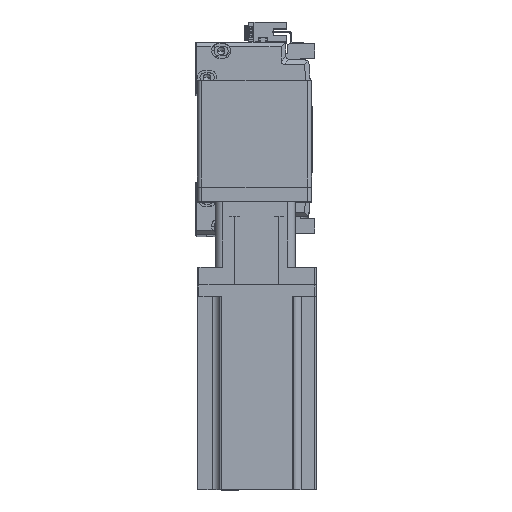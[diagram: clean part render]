
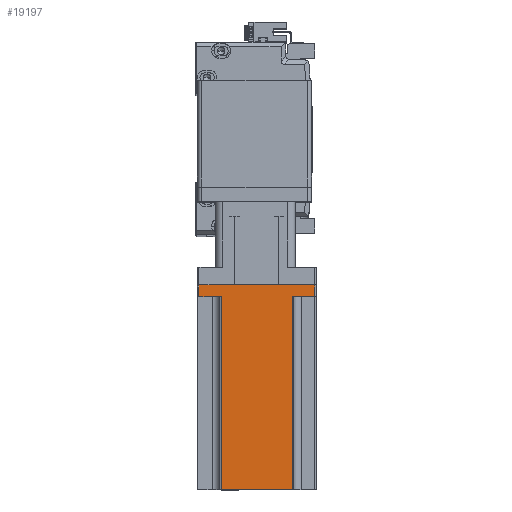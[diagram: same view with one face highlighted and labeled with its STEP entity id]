
A CAD part, top view. The second image highlights one B-rep face of the part: STEP entity #19197.
In plain terms, the highlighted planar face has unit normal (0, 0, 1) as drawn and (0, 1, 0) by its records, which use the part's own axes.
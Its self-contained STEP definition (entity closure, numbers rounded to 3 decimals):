
#129 = VERTEX_POINT ( 'NONE', #39412 ) ;
#264 = CARTESIAN_POINT ( 'NONE',  ( 40., 40., 0. ) ) ;
#806 = ORIENTED_EDGE ( 'NONE', *, *, #5353, .T. ) ;
#1436 = ORIENTED_EDGE ( 'NONE', *, *, #20038, .T. ) ;
#2991 = LINE ( 'NONE', #23368, #12756 ) ;
#3184 = ORIENTED_EDGE ( 'NONE', *, *, #32253, .T. ) ;
#3455 = VERTEX_POINT ( 'NONE', #28527 ) ;
#3532 = VECTOR ( 'NONE', #14710, 1000. ) ;
#4708 = LINE ( 'NONE', #43655, #3532 ) ;
#5270 = VECTOR ( 'NONE', #25439, 1000. ) ;
#5353 = EDGE_CURVE ( 'NONE', #26854, #3455, #33298, .T. ) ;
#5922 = VERTEX_POINT ( 'NONE', #10873 ) ;
#6058 = ORIENTED_EDGE ( 'NONE', *, *, #29821, .F. ) ;
#6641 = CARTESIAN_POINT ( 'NONE',  ( 40., 40., 138.3 ) ) ;
#7801 = ORIENTED_EDGE ( 'NONE', *, *, #20393, .F. ) ;
#9231 = VECTOR ( 'NONE', #9678, 1000. ) ;
#9574 = ORIENTED_EDGE ( 'NONE', *, *, #46765, .T. ) ;
#9678 = DIRECTION ( 'NONE',  ( -1., 0., 0. ) ) ;
#10351 = DIRECTION ( 'NONE',  ( 1., 0., 0. ) ) ;
#10873 = CARTESIAN_POINT ( 'NONE',  ( -24., 40., 8. ) ) ;
#11473 = CARTESIAN_POINT ( 'NONE',  ( -24., 40., 138.3 ) ) ;
#12756 = VECTOR ( 'NONE', #16395, 1000. ) ;
#13069 = LINE ( 'NONE', #42215, #31321 ) ;
#13402 = FACE_OUTER_BOUND ( 'NONE', #19238, .T. ) ;
#14532 = VERTEX_POINT ( 'NONE', #11473 ) ;
#14710 = DIRECTION ( 'NONE',  ( 1., 0., 0. ) ) ;
#14975 = LINE ( 'NONE', #39954, #5270 ) ;
#15189 = ORIENTED_EDGE ( 'NONE', *, *, #15352, .T. ) ;
#15352 = EDGE_CURVE ( 'NONE', #23214, #26854, #18807, .T. ) ;
#16395 = DIRECTION ( 'NONE',  ( 0., 0., -1. ) ) ;
#17550 = PLANE ( 'NONE',  #19362 ) ;
#18807 = LINE ( 'NONE', #264, #28536 ) ;
#19197 = ADVANCED_FACE ( 'NONE', ( #13402 ), #17550, .F. ) ;
#19238 = EDGE_LOOP ( 'NONE', ( #9574, #23245, #7801, #3184, #6058, #1436, #15189, #806 ) ) ;
#19362 = AXIS2_PLACEMENT_3D ( 'NONE', #6641, #32193, #10351 ) ;
#19738 = CARTESIAN_POINT ( 'NONE',  ( 24., 40., 138.3 ) ) ;
#20038 = EDGE_CURVE ( 'NONE', #129, #23214, #14975, .T. ) ;
#20393 = EDGE_CURVE ( 'NONE', #35461, #14532, #28618, .T. ) ;
#20444 = CARTESIAN_POINT ( 'NONE',  ( 25., 40., 8. ) ) ;
#21481 = CARTESIAN_POINT ( 'NONE',  ( 39., 40., 0. ) ) ;
#23214 = VERTEX_POINT ( 'NONE', #21481 ) ;
#23245 = ORIENTED_EDGE ( 'NONE', *, *, #41996, .T. ) ;
#23368 = CARTESIAN_POINT ( 'NONE',  ( 24., 40., 138.3 ) ) ;
#24076 = DIRECTION ( 'NONE',  ( -1., 0., 0. ) ) ;
#24728 = VECTOR ( 'NONE', #37677, 1000. ) ;
#25439 = DIRECTION ( 'NONE',  ( 0., 0., -1. ) ) ;
#25859 = DIRECTION ( 'NONE',  ( -1., 0., 0. ) ) ;
#26854 = VERTEX_POINT ( 'NONE', #28394 ) ;
#28346 = VECTOR ( 'NONE', #24076, 1000. ) ;
#28394 = CARTESIAN_POINT ( 'NONE',  ( -39., 40., 0. ) ) ;
#28527 = CARTESIAN_POINT ( 'NONE',  ( -39., 40., 8. ) ) ;
#28536 = VECTOR ( 'NONE', #25859, 1000. ) ;
#28618 = LINE ( 'NONE', #31535, #9231 ) ;
#29272 = VERTEX_POINT ( 'NONE', #34823 ) ;
#29490 = LINE ( 'NONE', #20444, #28346 ) ;
#29821 = EDGE_CURVE ( 'NONE', #129, #29272, #29490, .T. ) ;
#31321 = VECTOR ( 'NONE', #45814, 1000. ) ;
#31535 = CARTESIAN_POINT ( 'NONE',  ( 40., 40., 138.3 ) ) ;
#32193 = DIRECTION ( 'NONE',  ( 0., -1., 0. ) ) ;
#32253 = EDGE_CURVE ( 'NONE', #35461, #29272, #2991, .T. ) ;
#33298 = LINE ( 'NONE', #41945, #24728 ) ;
#34823 = CARTESIAN_POINT ( 'NONE',  ( 24., 40., 8. ) ) ;
#35461 = VERTEX_POINT ( 'NONE', #19738 ) ;
#37677 = DIRECTION ( 'NONE',  ( 0., 0., 1. ) ) ;
#39412 = CARTESIAN_POINT ( 'NONE',  ( 39., 40., 8. ) ) ;
#39954 = CARTESIAN_POINT ( 'NONE',  ( 39., 40., 138.3 ) ) ;
#41945 = CARTESIAN_POINT ( 'NONE',  ( -39., 40., 138.3 ) ) ;
#41996 = EDGE_CURVE ( 'NONE', #5922, #14532, #13069, .T. ) ;
#42215 = CARTESIAN_POINT ( 'NONE',  ( -24., 40., 138.3 ) ) ;
#43655 = CARTESIAN_POINT ( 'NONE',  ( -25., 40., 8. ) ) ;
#45814 = DIRECTION ( 'NONE',  ( 0., 0., 1. ) ) ;
#46765 = EDGE_CURVE ( 'NONE', #3455, #5922, #4708, .T. ) ;
